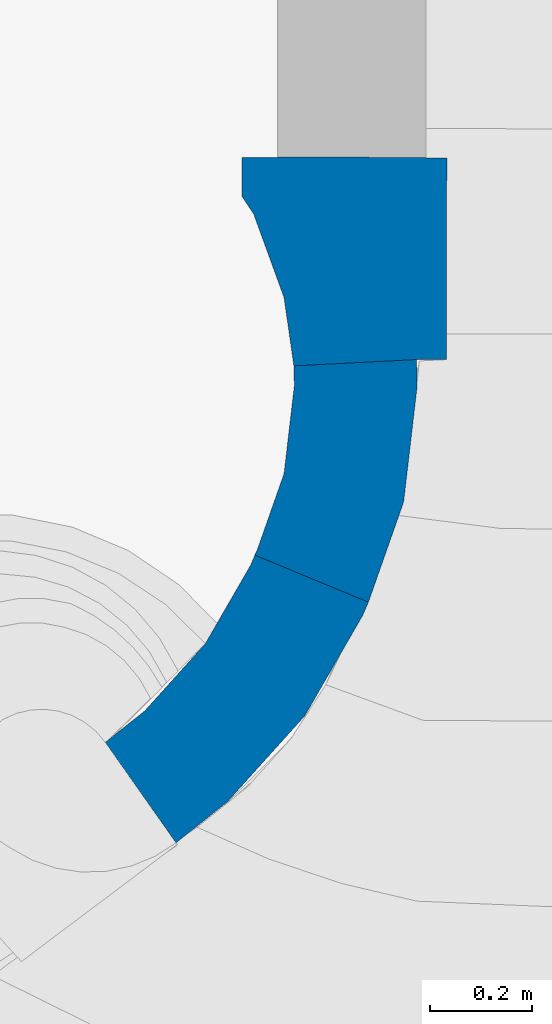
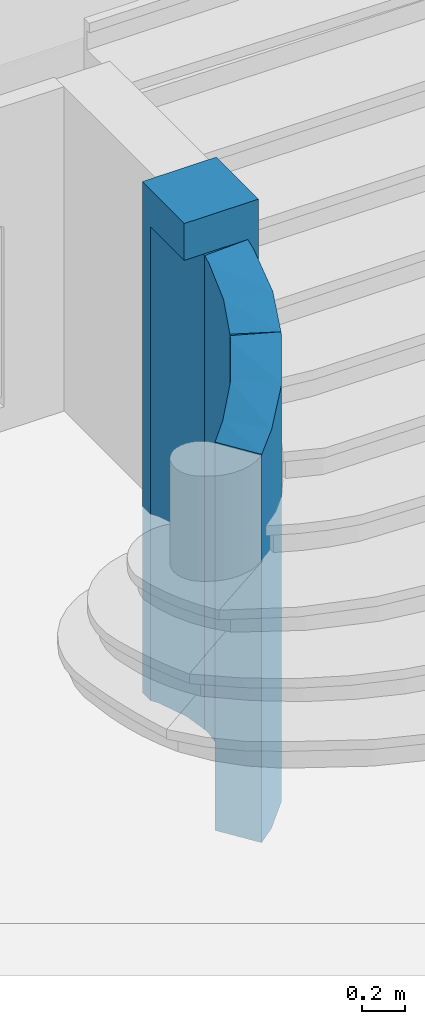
# One storey, part 12 of 133: 3 walls.
"""IFC2X3 building model written with IfcOpenShell, lengths in centimetres."""

from ifc_helpers import new_model, entity, si_unit, converted_unit, direction, frame, origin, origin_with_axes, place, context, subcontext, project, spatial, polyline, outline, extrude, clip, bounded_halfspace, material, layer, layer_set, layer_usage, type_object, element, save


model = new_model("IFC2X3")

# Units and contexts
model_context = context("Model", 3, precision=0.0001, world=origin(), true_north=direction((0.225632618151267, 0.974212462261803, 0.0)))
body_context = subcontext(model_context, "Body", "Model", "MODEL_VIEW")
ifc_project = project(units=[si_unit("LENGTHUNIT", "METRE", prefix="CENTI"), si_unit("AREAUNIT", "SQUARE_METRE", prefix="CENTI"), si_unit("VOLUMEUNIT", "CUBIC_METRE", prefix="CENTI"), converted_unit("PLANEANGLEUNIT", "DEGREE", entity("IfcRatioMeasure", 0.0174532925), si_unit("PLANEANGLEUNIT", "RADIAN"), dimensions=[0, 0, 0, 0, 0, 0, 0])], contexts=[model_context])

# Site, building, storey
site_placement = place(None, origin_with_axes())
site = spatial("IfcSite", under=ifc_project, at=site_placement, Name="Default Site", CompositionType="ELEMENT")
building_placement = place(site_placement, origin_with_axes())
building = spatial("IfcBuilding", under=site, at=building_placement, Name="Default Building", CompositionType="ELEMENT")
storey_placement = place(building_placement, frame((0.0, 0.0, -291.400371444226), z_axis=(0.0, 0.0, 1.0), x_axis=(1.0, 0.0, 0.0)))
storey = spatial("IfcBuildingStorey", under=building, at=storey_placement, Name="Rez-de-Jardin", CompositionType="ELEMENT", Elevation=-291.400371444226)

# Walls
ifc_material = material(Name="<aucun>")
ifc_layer_1 = layer(ifc_material, 40.0)
ifc_layer_set_1 = layer_set([ifc_layer_1], Name="default")
ifc_layer_usage_1 = layer_usage(ifc_layer_set_1, "AXIS2", "POSITIVE", -20.0)
wall_type_1 = type_object("IfcWallType", Name="default 400", PredefinedType="NOTDEFINED", material=ifc_layer_set_1)
wall_1_placement = place(storey_placement, frame((-413.51575784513, -1102.92736633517, -1.94511073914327e-11), z_axis=(0.0, 0.0, 1.0), x_axis=(0.00267103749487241, 0.999996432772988, 0.0)))
element("IfcWallStandardCase", 1, at=wall_1_placement, inside=storey, type_object=wall_type_1, material=ifc_layer_usage_1, Name="Enveloppe 327081", context=body_context, shape_type="Clipping", body=[
    clip(clip(extrude(outline(polyline([(0.0, 20.0), (0.0, 9.9582365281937), (-1.30390899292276, 9.76800795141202), (1.77635683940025e-13, -14.1965454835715), (0.0, -19.9999999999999), (39.4066021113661, -20.0000000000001), (39.406602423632, -15.9197699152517), (39.506601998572, -15.9195028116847), (39.4630451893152, 13.0804644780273), (39.4066022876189, 13.0803137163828), (39.4066021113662, 19.9999999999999), (0.0, 20.0)])), frame((0.0, 0.0, 4.44089209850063e-14), z_axis=(0.0, 0.0, 1.0), x_axis=(1.0, 0.0, 0.0)), (0.0, 0.0, 1.0), 291.413221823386), bounded_halfspace(frame((-1.77635683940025e-13, 20.0, 270.392004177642), z_axis=(0.0, 0.0, 1.0), x_axis=(1.0, 6.93455709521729e-16, 0.0)), True, frame((-1.77635683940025e-13, 20.0, 270.392004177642), z_axis=(0.0, 0.0, 1.0), x_axis=(1.0, 0.0, 0.0)), polyline([(-1.77635683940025e-13, -10.0417634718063), (-1.77635683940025e-13, 0.0), (31.802717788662, 0.0), (28.2982385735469, -2.31836571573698), (12.0394209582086, -8.28532040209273), (-1.77635683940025e-13, -10.0417634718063)]))), bounded_halfspace(frame((0.0, -14.1965454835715, 270.392004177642), z_axis=(0.0, 0.0, -1.0), x_axis=(-6.01298524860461e-15, 1.0, 0.0)), True, frame((0.0, -14.1965454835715, 270.392004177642), z_axis=(0.0, 0.0, 1.0), x_axis=(1.0, 0.0, 0.0)), polyline([(-1.30390899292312, 23.9645534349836), (0.0, 0.0), (-3.5527136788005e-13, 24.1547820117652), (-1.30390899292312, 23.9645534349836)]))),
])
ifc_layer_2 = layer(ifc_material, 24.0)
ifc_layer_set_2 = layer_set([ifc_layer_2], Name="default")
ifc_layer_usage_2 = layer_usage(ifc_layer_set_2, "AXIS2", "POSITIVE", -12.0)
wall_type_2 = type_object("IfcWallType", Name="default 240", PredefinedType="NOTDEFINED", material=ifc_layer_set_2)
wall_2_placement = place(storey_placement, frame((-453.224345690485, -1187.5681206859, 1.33226762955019e-13), z_axis=(0.0, 0.0, 1.0), x_axis=(0.816763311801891, 0.576972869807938, 0.0)))
element("IfcWallStandardCase", 2, at=wall_2_placement, inside=storey, type_object=wall_type_2, material=ifc_layer_usage_2, Name="Enveloppe courbe 336805", context=body_context, shape_type="Clipping", body=[
    clip(clip(clip(clip(clip(clip(clip(clip(extrude(outline(polyline([(-5.32907051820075e-13, 12.000000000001), (1.77635683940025e-13, -11.9999999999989), (12.7575602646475, -11.2462967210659), (34.8487410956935, -6.24267282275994), (55.4168647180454, 3.24462464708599), (57.8162376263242, 4.71532040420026), (45.0093669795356, 25.0127109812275), (43.141478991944, 23.8677889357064), (27.1293989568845, 16.482022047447), (9.93163400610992, 12.5867505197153), (-5.32907051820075e-13, 12.000000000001)])), origin_with_axes(), (0.0, 0.0, 1.0), 249.811892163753), bounded_halfspace(frame((43.141478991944, 23.8677889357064, 248.505517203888), z_axis=(0.487544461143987, 0.165613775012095, -0.857247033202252), x_axis=(0.321639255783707, -0.946862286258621, -6.05996734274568e-14)), True, frame((43.141478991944, 23.8677889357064, 248.505517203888), z_axis=(0.0, 0.0, 1.0), x_axis=(1.0, 0.0, 0.0)), polyline([(-16.0120800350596, -7.38576688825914), (-8.29273789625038, -30.1104617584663), (1.77635683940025e-13, 0.0), (-16.0120800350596, -7.38576688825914)]))), bounded_halfspace(frame((27.1293989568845, 16.482022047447, 237.972047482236), z_axis=(0.511323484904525, 0.0606285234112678, -0.857247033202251), x_axis=(0.117746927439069, -0.993043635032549, -4.3483735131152e-14)), True, frame((27.1293989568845, 16.482022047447, 237.972047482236), z_axis=(0.0, 0.0, 1.0), x_axis=(1.0, 0.0, 0.0)), polyline([(-17.1977649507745, -3.89527152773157), (-14.3718386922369, -27.7283187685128), (0.0, 1.77635683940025e-13), (-17.1977649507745, -3.89527152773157)]))), bounded_halfspace(frame((9.93163400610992, 12.5867505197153, 227.438577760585), z_axis=(0.513014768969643, -2.19269047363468e-15, -0.858379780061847), x_axis=(3.09752223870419e-14, -1.0, 2.17418675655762e-14)), True, frame((9.93163400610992, 12.5867505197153, 227.438577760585), z_axis=(0.0, 0.0, 1.0), x_axis=(1.0, 0.0, 0.0)), polyline([(-9.93163400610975, -24.586750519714), (0.0, 1.77635683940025e-13), (-9.93163400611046, -0.586750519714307), (-9.93163400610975, -24.586750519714)]))), bounded_halfspace(frame((9.93163400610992, 12.5867505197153, 227.438577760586), z_axis=(0.418909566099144, 0.0496708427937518, -0.906668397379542), x_axis=(-0.117746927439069, 0.993043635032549, 3.65448412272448e-14)), True, frame((9.93163400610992, 12.5867505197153, 227.438577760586), z_axis=(0.0, 0.0, 1.0), x_axis=(1.0, 0.0, 0.0)), polyline([(-9.93163400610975, -24.586750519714), (2.82592625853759, -23.833047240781), (0.0, 1.77635683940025e-13), (-9.93163400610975, -24.586750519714)]))), bounded_halfspace(frame((27.1293989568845, 16.482022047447, 237.972047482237), z_axis=(0.401071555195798, 0.136239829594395, -0.905858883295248), x_axis=(-0.321639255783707, 0.946862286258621, 4.9034850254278e-14)), True, frame((27.1293989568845, 16.482022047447, 237.972047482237), z_axis=(0.0, 0.0, 1.0), x_axis=(1.0, 0.0, 0.0)), polyline([(-14.3718386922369, -27.7283187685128), (7.71934213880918, -22.724694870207), (0.0, 1.77635683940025e-13), (-14.3718386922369, -27.7283187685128)]))), bounded_halfspace(frame((43.141478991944, 23.8677889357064, 248.505517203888), z_axis=(0.363981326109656, 0.216650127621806, -0.905858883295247), x_axis=(-0.511474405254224, 0.859298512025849, 5.31981865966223e-14)), True, frame((43.141478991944, 23.8677889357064, 248.505517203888), z_axis=(0.0, 0.0, 1.0), x_axis=(1.0, 0.0, 0.0)), polyline([(-8.29273789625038, -30.1104617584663), (12.2753857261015, -20.6231642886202), (1.77635683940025e-13, 0.0), (-8.29273789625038, -30.1104617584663)]))), bounded_halfspace(frame((45.0093669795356, 25.0127109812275, 249.811892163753), z_axis=(0.356116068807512, 0.224695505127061, -0.907024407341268), x_axis=(-0.533619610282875, 0.845724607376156, 2.61133707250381e-13)), True, frame((45.0093669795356, 25.0127109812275, 249.811892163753), z_axis=(0.0, 0.0, 1.0), x_axis=(1.0, 0.0, 0.0)), polyline([(0.0, 8.88178419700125e-14), (10.40749773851, -21.7680863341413), (12.8068706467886, -20.297390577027), (0.0, 8.88178419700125e-14)]))), bounded_halfspace(frame((45.0093669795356, 25.0127109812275, 249.811892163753), z_axis=(0.440115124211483, 0.261966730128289, -0.858878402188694), x_axis=(-0.4307124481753, 0.900868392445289, 0.0540640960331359)), True, frame((45.0093669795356, 25.0127109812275, 249.811892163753), z_axis=(0.0, 0.0, 1.0), x_axis=(1.0, 0.0, 0.0)), polyline([(-1.86788798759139, -1.14492204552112), (10.40749773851, -21.7680863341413), (0.0, 8.88178419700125e-14), (-1.86788798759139, -1.14492204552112)]))),
])
ifc_layer_usage_3 = layer_usage(ifc_layer_set_2, "AXIS2", "POSITIVE", -12.0)
wall_3_placement = place(storey_placement, frame((-419.562212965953, -1145.20996291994, 8.88178419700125e-14), z_axis=(0.0, 0.0, 1.0), x_axis=(0.429038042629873, 0.90328642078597, 0.0)))
element("IfcWallStandardCase", 3, at=wall_3_placement, inside=storey, type_object=wall_type_2, material=ifc_layer_usage_3, Name="Enveloppe courbe 336582", context=body_context, shape_type="Clipping", body=[
    clip(clip(clip(clip(clip(clip(clip(extrude(outline(polyline([(-1.21204822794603, 11.9693750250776), (-1.10134124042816e-10, -12.0000000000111), (20.6215788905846, -9.81926651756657), (42.2996560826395, -2.46482891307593), (46.8440387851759, -0.160608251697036), (35.4408965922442, 20.9573544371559), (32.0027430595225, 19.2140451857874), (15.6017129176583, 13.6498822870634), (-8.88178419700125e-13, 12.0000000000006), (-0.927039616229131, 12.0101948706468), (-1.21204822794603, 11.9693750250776)])), frame((0.0, 0.0, -1.94511073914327e-11), z_axis=(0.0, 0.0, 1.0), x_axis=(1.0, 0.0, 0.0)), (0.0, 0.0, 1.0), 270.392004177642), bounded_halfspace(frame((35.4408965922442, 20.9573544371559, 270.392004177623), z_axis=(0.439846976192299, 0.208916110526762, -0.87343499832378), x_axis=(0.429038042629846, -0.903286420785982, -5.50485583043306e-14)), True, frame((35.4408965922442, 20.9573544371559, 270.392004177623), z_axis=(0.0, 0.0, 1.0), x_axis=(1.0, 0.0, 0.0)), polyline([(-3.4381535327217, -1.74330925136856), (6.85875949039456, -23.4221833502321), (1.77635683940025e-13, 0.0), (-3.4381535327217, -1.74330925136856)]))), bounded_halfspace(frame((-0.927039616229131, 12.0101948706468, 249.811892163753), z_axis=(0.0, 0.0, -1.0), x_axis=(-0.989898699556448, -0.141776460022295, 0.0)), True, frame((-0.927039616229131, 12.0101948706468, 249.811892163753), z_axis=(0.0, 0.0, 1.0), x_axis=(1.0, 0.0, 0.0)), polyline([(-0.285008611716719, -0.040819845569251), (0.927039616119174, -24.0101948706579), (0.92703961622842, -0.0101948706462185), (0.0, -4.44089209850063e-14), (-0.285008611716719, -0.040819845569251)]))), bounded_halfspace(frame((32.0027430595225, 19.2140451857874, 268.243628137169), z_axis=(0.479296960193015, 0.102517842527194, -0.871644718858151), x_axis=(0.20916108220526, -0.977881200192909, -2.5442610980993e-14)), True, frame((32.0027430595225, 19.2140451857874, 268.243628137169), z_axis=(0.0, 0.0, 1.0), x_axis=(1.0, 0.0, 0.0)), polyline([(-16.4010301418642, -5.56416289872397), (-11.3811641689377, -29.0333117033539), (0.0, -4.44089209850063e-14), (-16.4010301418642, -5.56416289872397)]))), bounded_halfspace(frame((15.6017129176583, 13.6498822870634, 258.570661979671), z_axis=(0.489531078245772, -7.49400541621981e-16, -0.871985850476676), x_axis=(-4.55385729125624e-12, -1.0, -2.55490073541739e-12)), True, frame((15.6017129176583, 13.6498822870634, 258.570661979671), z_axis=(0.0, 0.0, 1.0), x_axis=(1.0, 0.0, 0.0)), polyline([(-15.6017129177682, -25.6498822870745), (0.0, 0.0), (-15.601712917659, -1.64988228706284), (-15.6017129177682, -25.6498822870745)]))), bounded_halfspace(frame((15.6017129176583, 13.6498822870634, 258.570661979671), z_axis=(0.382289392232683, 0.0817686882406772, -0.92041767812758), x_axis=(-0.20916108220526, 0.977881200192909, 1.59594559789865e-14)), True, frame((15.6017129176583, 13.6498822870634, 258.570661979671), z_axis=(0.0, 0.0, 1.0), x_axis=(1.0, 0.0, 0.0)), polyline([(-15.6017129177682, -25.6498822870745), (5.0198659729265, -23.46914880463), (0.0, 0.0), (-15.6017129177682, -25.6498822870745)]))), bounded_halfspace(frame((32.0027430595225, 19.2140451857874, 268.243628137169), z_axis=(0.353615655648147, 0.167958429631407, -0.92018798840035), x_axis=(-0.429038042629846, 0.903286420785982, 4.02455846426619e-14)), True, frame((32.0027430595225, 19.2140451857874, 268.243628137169), z_axis=(0.0, 0.0, 1.0), x_axis=(1.0, 0.0, 0.0)), polyline([(-11.3811641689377, -29.0333117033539), (10.2969130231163, -21.6788740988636), (0.0, -4.44089209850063e-14), (-11.3811641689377, -29.0333117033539)]))), bounded_halfspace(frame((35.4408965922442, 20.9573544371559, 270.392004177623), z_axis=(0.341964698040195, 0.184651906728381, -0.921392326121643), x_axis=(-0.475130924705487, 0.879915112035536, 8.09537622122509e-15)), True, frame((35.4408965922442, 20.9573544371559, 270.392004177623), z_axis=(0.0, 0.0, 1.0), x_axis=(1.0, 0.0, 0.0)), polyline([(1.77635683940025e-13, 0.0), (6.85875949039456, -23.4221833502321), (11.4031421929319, -21.1179626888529), (1.77635683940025e-13, 0.0)]))),
])

save(model, "model.ifc")
